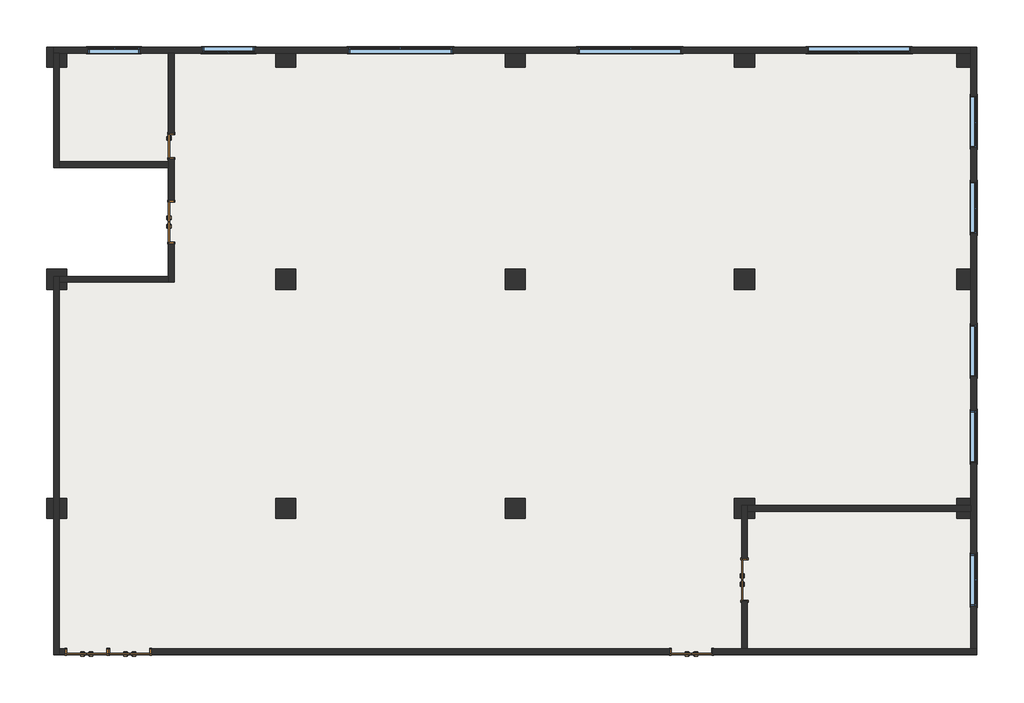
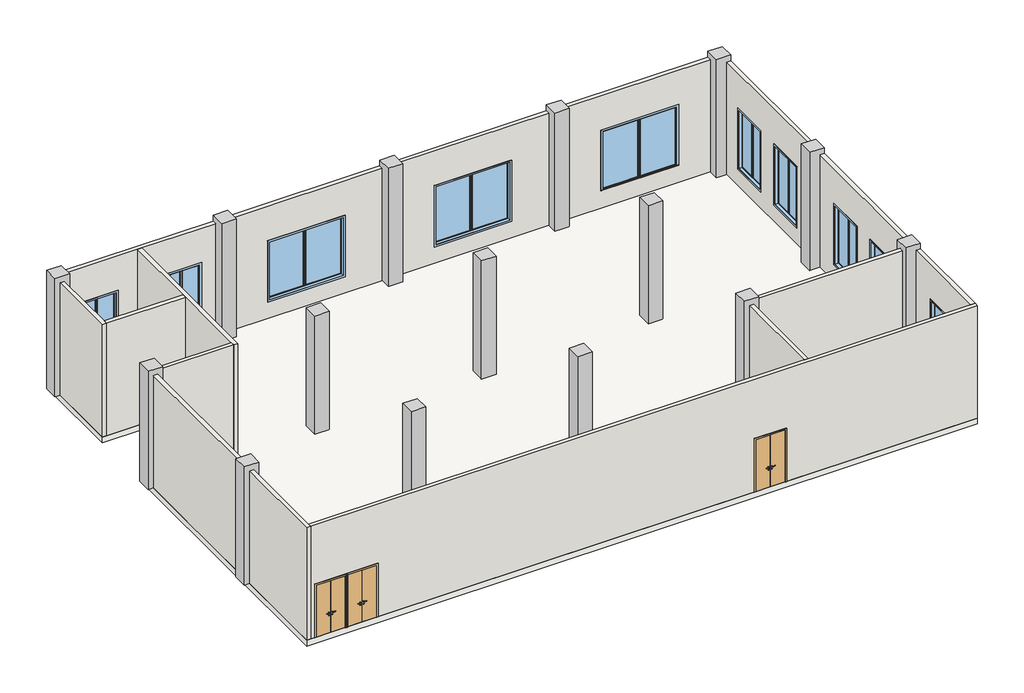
# One storey: 15 columns, 10 walls, 10 windows, 6 doors, 1 slab.
"""IFC4 building model written with IfcOpenShell, lengths in millimetres."""

from ifc_helpers import new_model, si_unit, frame, origin, origin_with_axes, place, context, project, spatial, polyline, outline, extrude, faceted_brep, transform, mapped, element, save
from components import column_5b022033, door_1500_x_2700mm_f4b82eac, door_1500_x_2700mm_deb20012, door_900_x_2100mm_1d156f18, window_d386cda9, window_40abb5d8

model = new_model("IFC4")

# Units and contexts
model_context = context("Model", 3, world=origin())
ifc_project = project(units=[si_unit("LENGTHUNIT", "METRE", prefix="MILLI")], contexts=[model_context])

# Site, building, storey
site = spatial("IfcSite", under=ifc_project)
building = spatial("IfcBuilding", under=site)
storey = spatial("IfcBuildingStorey", under=building, Name="标高 1", Elevation=0.0)

# Columns
placement = place(None, origin())
element("IfcColumn", 1, ObjectType="矩形柱 : 700*700MM", at=placement, inside=storey, context=model_context, shape_type="Brep", body=[
    faceted_brep([(-12381.5860739, 4904.04275, 6000.0), (-13081.5860739, 4904.04275, 6000.0), (-13081.5860739, 4204.04275, 6000.0), (-12381.5860739, 4204.04275, 6000.0), (-13081.5860739, 4204.04275, 0.0), (-13081.5860739, 4904.04275, 0.0), (-12831.5860739, 4904.04275, 0.0), (-12831.5860739, 4704.04275, 0.0), (-12831.5860739, 4204.04275, 0.0), (-12381.5860739, 4904.04275, 5700.0), (-12831.5860739, 4904.04275, 5700.0), (-12831.5860739, 4204.04275, 5700.0), (-12631.5860739, 4204.04275, 5700.0), (-12631.5860739, 4204.04275, 0.0), (-12381.5860739, 4204.04275, 0.0), (-12381.5860739, 4704.04275, 0.0), (-12381.5860739, 4704.04275, 5700.0), (-12631.5860739, 4704.04275, 0.0), (-12631.5860739, 4704.04275, 5700.0), (-12831.5860739, 4704.04275, 5700.0)], [[[0, 1, 2, 3]], [[4, 5, 6, 7, 8]], [[1, 0, 9, 10, 6, 5]], [[2, 1, 5, 4]], [[3, 2, 4, 8, 11, 12, 13, 14]], [[0, 3, 14, 15, 16, 9]], [[16, 15, 17, 18]], [[7, 6, 10, 19]], [[12, 18, 17, 13]], [[19, 11, 8, 7]], [[15, 14, 13, 17]], [[19, 10, 9, 16, 18]], [[18, 12, 11, 19]]]),
])
element("IfcColumn", 2, ObjectType="矩形柱 : 700*700MM", at=placement, inside=storey, context=model_context, shape_type="SweptSolid", body=[
    extrude(outline(polyline([(4204.04275, 6000.0), (4904.04275, 6000.0), (4904.04275, 5700.0), (4704.04275, 5700.0), (4704.04275, 0.0), (4204.04275, 0.0), (4204.04275, 6000.0)])), frame((-5081.5860739, 0.0, 0.0), z_axis=(1.0, 0.0, 0.0), x_axis=(0.0, 1.0, 0.0)), (0.0, 0.0, 1.0), 700.0),
])
element("IfcColumn", 3, ObjectType="矩形柱 : 700*700MM", at=placement, inside=storey, context=model_context, shape_type="SweptSolid", body=[
    extrude(outline(polyline([(4204.04275, 6000.0), (4904.04275, 6000.0), (4904.04275, 5700.0), (4704.04275, 5700.0), (4704.04275, 0.0), (4204.04275, 0.0), (4204.04275, 6000.0)])), frame((2918.4139261, 0.0, 0.0), z_axis=(1.0, 0.0, 0.0), x_axis=(0.0, 1.0, 0.0)), (0.0, 0.0, 1.0), 700.0),
])
element("IfcColumn", 4, ObjectType="矩形柱 : 700*700MM", at=placement, inside=storey, context=model_context, shape_type="SweptSolid", body=[
    extrude(outline(polyline([(4204.04275, 6000.0), (4904.04275, 6000.0), (4904.04275, 5700.0), (4704.04275, 5700.0), (4704.04275, 0.0), (4204.04275, 0.0), (4204.04275, 6000.0)])), frame((10918.4139261, 0.0, 0.0), z_axis=(1.0, 0.0, 0.0), x_axis=(0.0, 1.0, 0.0)), (0.0, 0.0, 1.0), 700.0),
])
element("IfcColumn", 5, ObjectType="矩形柱 : 700*700MM", at=placement, inside=storey, context=model_context, shape_type="Brep", body=[
    faceted_brep([(19368.4139261, 4904.04275, 6000.0), (18668.4139261, 4904.04275, 6000.0), (18668.4139261, 4204.04275, 6000.0), (19368.4139261, 4204.04275, 6000.0), (18668.4139261, 4204.04275, 0.0), (18668.4139261, 4704.04275, 0.0), (19168.4139261, 4704.04275, 0.0), (19168.4139261, 4204.04275, 0.0), (19368.4139261, 4904.04275, 5700.0), (19168.4139261, 4904.04275, 5700.0), (18668.4139261, 4904.04275, 5700.0), (18668.4139261, 4704.04275, 5700.0), (19168.4139261, 4204.04275, 5700.0), (19368.4139261, 4204.04275, 5700.0), (19168.4139261, 4704.04275, 5700.0)], [[[0, 1, 2, 3]], [[4, 5, 6, 7]], [[1, 0, 8, 9, 10]], [[2, 1, 10, 11, 5, 4]], [[3, 2, 4, 7, 12, 13]], [[0, 3, 13, 8]], [[6, 5, 11, 14]], [[14, 12, 7, 6]], [[14, 11, 10, 9]], [[12, 14, 9, 8, 13]]]),
])
element("IfcColumn", 6, ObjectType="矩形柱 : 700*700MM", at=placement, inside=storey, context=model_context, shape_type="Brep", body=[
    faceted_brep([(-12381.5860739, -2845.95725, 6000.0), (-13081.5860739, -2845.95725, 6000.0), (-13081.5860739, -3545.95725, 6000.0), (-12381.5860739, -3545.95725, 6000.0), (-13081.5860739, -3545.95725, 0.0), (-13081.5860739, -2845.95725, 0.0), (-12381.5860739, -2845.95725, 0.0), (-12381.5860739, -3095.95725, 0.0), (-12631.5860739, -3095.95725, 0.0), (-12831.5860739, -3095.95725, 0.0), (-12831.5860739, -3545.95725, 0.0), (-12831.5860739, -3545.95725, 5700.0), (-12631.5860739, -3545.95725, 5700.0), (-12631.5860739, -3545.95725, 0.0), (-12381.5860739, -3545.95725, 0.0), (-12381.5860739, -3295.95725, 0.0), (-12381.5860739, -3295.95725, 5700.0), (-12381.5860739, -3095.95725, 5700.0), (-12631.5860739, -3295.95725, 5700.0), (-12631.5860739, -3295.95725, 0.0), (-12831.5860739, -3095.95725, 5700.0), (-12631.5860739, -3095.95725, 5700.0)], [[[0, 1, 2, 3]], [[4, 5, 6, 7, 8, 9, 10]], [[1, 0, 6, 5]], [[2, 1, 5, 4]], [[3, 2, 4, 10, 11, 12, 13, 14]], [[0, 3, 14, 15, 16, 17, 7, 6]], [[13, 12, 18, 19]], [[9, 20, 11, 10]], [[20, 9, 8, 21]], [[17, 21, 8, 7]], [[18, 16, 15, 19]], [[14, 13, 19, 15]], [[20, 21, 18, 12, 11]], [[21, 17, 16, 18]]]),
])
element("IfcColumn", 7, ObjectType="矩形柱 : 700*700MM", at=placement, inside=storey, context=model_context, shape_type="SweptSolid", body=[
    extrude(outline(polyline([(6000.0, -12381.5860739), (6000.0, -13081.5860739), (0.0, -13081.5860739), (0.0, -12831.5860739), (5700.0, -12831.5860739), (5700.0, -12631.5860739), (0.0, -12631.5860739), (0.0, -12381.5860739), (6000.0, -12381.5860739)])), frame((0.0, -11545.95725, 0.0), z_axis=(0.0, 1.0, 0.0), x_axis=(0.0, 0.0, 1.0)), (0.0, 0.0, 1.0), 700.0),
])
element("IfcColumn", 8, ObjectType="矩形柱 : 700*700MM", at=placement, inside=storey, context=model_context, shape_type="Brep", body=[
    faceted_brep([(11618.4139261, -10845.95725, 6000.0), (10918.4139261, -10845.95725, 6000.0), (10918.4139261, -11545.95725, 6000.0), (11618.4139261, -11545.95725, 6000.0), (10918.4139261, -11545.95725, 0.0), (10918.4139261, -10845.95725, 0.0), (11618.4139261, -10845.95725, 0.0), (11618.4139261, -11095.95725, 0.0), (11368.4139261, -11095.95725, 0.0), (11168.4139261, -11095.95725, 0.0), (11168.4139261, -11545.95725, 0.0), (11168.4139261, -11545.95725, 5700.0), (11368.4139261, -11545.95725, 5700.0), (11368.4139261, -11545.95725, 0.0), (11618.4139261, -11545.95725, 0.0), (11618.4139261, -11295.95725, 0.0), (11618.4139261, -11295.95725, 5700.0), (11618.4139261, -11095.95725, 5700.0), (11368.4139261, -11295.95725, 5700.0), (11368.4139261, -11295.95725, 0.0), (11168.4139261, -11095.95725, 5700.0), (11368.4139261, -11095.95725, 5700.0)], [[[0, 1, 2, 3]], [[4, 5, 6, 7, 8, 9, 10]], [[1, 0, 6, 5]], [[2, 1, 5, 4]], [[3, 2, 4, 10, 11, 12, 13, 14]], [[0, 3, 14, 15, 16, 17, 7, 6]], [[13, 12, 18, 19]], [[9, 20, 11, 10]], [[20, 9, 8, 21]], [[18, 16, 15, 19]], [[17, 21, 8, 7]], [[14, 13, 19, 15]], [[20, 21, 18, 12, 11]], [[16, 18, 21, 17]]]),
])
element("IfcColumn", 9, ObjectType="矩形柱 : 700*700MM", at=placement, inside=storey, context=model_context, shape_type="SweptSolid", body=[
    extrude(outline(polyline([(6000.0, 19368.4139261), (6000.0, 18668.4139261), (0.0, 18668.4139261), (0.0, 19168.4139261), (5700.0, 19168.4139261), (5700.0, 19368.4139261), (6000.0, 19368.4139261)])), frame((0.0, -3545.95725, 0.0), z_axis=(0.0, 1.0, 0.0), x_axis=(0.0, 0.0, 1.0)), (0.0, 0.0, 1.0), 700.0),
])
element("IfcColumn", 10, ObjectType="矩形柱 : 700*700MM", at=placement, inside=storey, context=model_context, shape_type="Brep", body=[
    faceted_brep([(19368.4139261, -10845.95725, 6000.0), (18668.4139261, -10845.95725, 6000.0), (18668.4139261, -11545.95725, 6000.0), (19368.4139261, -11545.95725, 6000.0), (18668.4139261, -10845.95725, 0.0), (19168.4139261, -10845.95725, 0.0), (19168.4139261, -11095.95725, 0.0), (18668.4139261, -11095.95725, 0.0), (19368.4139261, -10845.95725, 5700.0), (19168.4139261, -10845.95725, 5700.0), (18668.4139261, -11095.95725, 5700.0), (18668.4139261, -11295.95725, 5700.0), (18668.4139261, -11295.95725, 0.0), (18668.4139261, -11545.95725, 0.0), (19168.4139261, -11545.95725, 0.0), (19168.4139261, -11545.95725, 5700.0), (19368.4139261, -11545.95725, 5700.0), (19168.4139261, -11095.95725, 5700.0), (19168.4139261, -11295.95725, 5700.0), (19168.4139261, -11295.95725, 0.0)], [[[0, 1, 2, 3]], [[4, 5, 6, 7]], [[1, 0, 8, 9, 5, 4]], [[2, 1, 4, 7, 10, 11, 12, 13]], [[3, 2, 13, 14, 15, 16]], [[0, 3, 16, 8]], [[5, 9, 17, 6]], [[11, 18, 19, 12]], [[17, 10, 7, 6]], [[14, 13, 12, 19]], [[15, 14, 19, 18]], [[9, 8, 16, 15, 18, 17]], [[18, 11, 10, 17]]]),
])
column_shape = column_5b022033(model_context)
element("IfcColumn", 11, ObjectType="矩形柱 : 700*700MM", at=placement, inside=storey, context=model_context, shape_type="MappedRepresentation", body=[
    mapped(column_shape, transform((-4731.5860739, -11195.95725, 0.0), x_axis=(1.0, 0.0, 0.0), y_axis=(0.0, 1.0, 0.0), z_axis=(0.0, 0.0, 1.0))),
])
element("IfcColumn", 12, ObjectType="矩形柱 : 700*700MM", at=placement, inside=storey, context=model_context, shape_type="MappedRepresentation", body=[
    mapped(column_shape, transform((-4731.5860739, -3195.95725, 0.0), x_axis=(1.0, 0.0, 0.0), y_axis=(0.0, 1.0, 0.0), z_axis=(0.0, 0.0, 1.0))),
])
element("IfcColumn", 13, ObjectType="矩形柱 : 700*700MM", at=placement, inside=storey, context=model_context, shape_type="MappedRepresentation", body=[
    mapped(column_shape, transform((3268.4139261, -3195.95725, 0.0), x_axis=(1.0, 0.0, 0.0), y_axis=(0.0, 1.0, 0.0), z_axis=(0.0, 0.0, 1.0))),
])
element("IfcColumn", 14, ObjectType="矩形柱 : 700*700MM", at=placement, inside=storey, context=model_context, shape_type="MappedRepresentation", body=[
    mapped(column_shape, transform((3268.4139261, -11195.95725, 0.0), x_axis=(1.0, 0.0, 0.0), y_axis=(0.0, 1.0, 0.0), z_axis=(0.0, 0.0, 1.0))),
])
element("IfcColumn", 15, ObjectType="矩形柱 : 700*700MM", at=placement, inside=storey, context=model_context, shape_type="MappedRepresentation", body=[
    mapped(column_shape, transform((11268.4139261, -3195.95725, 0.0), x_axis=(1.0, 0.0, 0.0), y_axis=(0.0, 1.0, 0.0), z_axis=(0.0, 0.0, 1.0))),
])

# Doors
door_1500_x_2700mm_shape = door_1500_x_2700mm_f4b82eac(model_context)
element("IfcDoor", 16, ObjectType="双面嵌板木门 1 : 1500 x 2700mm", at=placement, inside=storey, context=model_context, shape_type="MappedRepresentation", body=[
    mapped(door_1500_x_2700mm_shape, transform((-10181.5860739, -16195.95725, 0.0), x_axis=(-1.0, 0.0, 0.0), y_axis=(0.0, -1.0, 0.0), z_axis=(0.0, 0.0, 1.0))),
])
element("IfcDoor", 17, ObjectType="双面嵌板木门 1 : 1500 x 2700mm", at=placement, inside=storey, context=model_context, shape_type="MappedRepresentation", body=[
    mapped(door_1500_x_2700mm_shape, transform((9418.4139261, -16195.95725, 0.0), x_axis=(-1.0, 0.0, 0.0), y_axis=(0.0, -1.0, 0.0), z_axis=(0.0, 0.0, 1.0))),
])
element("IfcDoor", 18, ObjectType="双面嵌板木门 1 : 1500 x 2700mm", at=placement, inside=storey, context=model_context, shape_type="MappedRepresentation", body=[
    mapped(door_1500_x_2700mm_shape, transform((11268.4139261, -13695.95725, 0.0), x_axis=(0.0, 1.0, 0.0), y_axis=(-1.0, 0.0, 0.0), z_axis=(0.0, 0.0, 1.0))),
])
door_1500_x_2700mm_2_shape = door_1500_x_2700mm_deb20012(model_context)
element("IfcDoor", 19, ObjectType="双面嵌板木门 1 : 1500 x 2700mm", at=placement, inside=storey, context=model_context, shape_type="MappedRepresentation", body=[
    mapped(door_1500_x_2700mm_2_shape, transform((-11681.5860739, -16195.95725, 0.0), x_axis=(1.0, 0.0, 0.0), y_axis=(0.0, 1.0, 0.0), z_axis=(0.0, 0.0, 1.0))),
])
element("IfcDoor", 20, ObjectType="双面嵌板木门 1 : 1500 x 2700mm", at=placement, inside=storey, context=model_context, shape_type="MappedRepresentation", body=[
    mapped(door_1500_x_2700mm_2_shape, transform((-8731.5860739, -1195.95725, 0.0), x_axis=(0.0, -1.0, 0.0), y_axis=(1.0, 0.0, 0.0), z_axis=(0.0, 0.0, 1.0))),
])
door_900_x_2100mm_shape = door_900_x_2100mm_1d156f18(model_context)
element("IfcDoor", 21, ObjectType="单嵌板木门 1 : 900 x 2100mm", at=placement, inside=storey, context=model_context, shape_type="MappedRepresentation", body=[
    mapped(door_900_x_2100mm_shape, transform((-8731.5860739, 1454.04275, 0.0), x_axis=(0.0, -1.0, 0.0), y_axis=(1.0, 0.0, 0.0), z_axis=(0.0, 0.0, 1.0))),
])

# Slab
element("IfcSlab", 22, ObjectType="常规 - 300mm", at=placement, inside=storey, context=model_context, shape_type="SweptSolid", body=[
    extrude(outline(polyline([(-12831.5860739, 4904.04275), (19368.4139261, 4904.04275), (19368.4139261, -16295.95725), (-12831.5860739, -16295.95725), (-12831.5860739, -3095.95725), (-8831.5860739, -3095.95725), (-8831.5860739, 704.04275), (-12831.5860739, 704.04275), (-12831.5860739, 4904.04275)])), frame((0.0, 0.0, -300.0), z_axis=(0.0, 0.0, 1.0), x_axis=(1.0, 0.0, 0.0)), (0.0, 0.0, 1.0), 300.0),
])

# Walls
element("IfcWall", 23, ObjectType="常规 - 200mm", at=placement, inside=storey, context=model_context, shape_type="Brep", body=[
    faceted_brep([(-12831.5860739, 4704.04275, 0.0), (-12631.5860739, 4704.04275, 0.0), (-12381.5860739, 4704.04275, 0.0), (-8831.5860739, 4704.04275, 0.0), (-8631.5860739, 4704.04275, 0.0), (-5081.5860739, 4704.04275, 0.0), (-4381.5860739, 4704.04275, 0.0), (2918.4139261, 4704.04275, 0.0), (3618.4139261, 4704.04275, 0.0), (10918.4139261, 4704.04275, 0.0), (11618.4139261, 4704.04275, 0.0), (18668.4139261, 4704.04275, 0.0), (19168.4139261, 4704.04275, 0.0), (19168.4139261, 4704.04275, 5700.0), (18668.4139261, 4704.04275, 5700.0), (11618.4139261, 4704.04275, 5700.0), (10918.4139261, 4704.04275, 5700.0), (3618.4139261, 4704.04275, 5700.0), (2918.4139261, 4704.04275, 5700.0), (-4381.5860739, 4704.04275, 5700.0), (-5081.5860739, 4704.04275, 5700.0), (-8631.5860739, 4704.04275, 5700.0), (-8831.5860739, 4704.04275, 5700.0), (-12381.5860739, 4704.04275, 5700.0), (-12631.5860739, 4704.04275, 5700.0), (-12831.5860739, 4704.04275, 5700.0), (-9831.5860739, 4704.04275, 3900.0), (-9831.5860739, 4704.04275, 900.0), (-11631.5860739, 4704.04275, 900.0), (-11631.5860739, 4704.04275, 3900.0), (-7631.5860739, 4704.04275, 3900.0), (-5831.5860739, 4704.04275, 3900.0), (-5831.5860739, 4704.04275, 900.0), (-7631.5860739, 4704.04275, 900.0), (1068.4139261, 4704.04275, 3900.0), (1068.4139261, 4704.04275, 900.0), (-2531.5860739, 4704.04275, 900.0), (-2531.5860739, 4704.04275, 3900.0), (9068.4139261, 4704.04275, 3900.0), (9068.4139261, 4704.04275, 900.0), (5468.4139261, 4704.04275, 900.0), (5468.4139261, 4704.04275, 3900.0), (13468.4139261, 4704.04275, 3900.0), (17068.4139261, 4704.04275, 3900.0), (17068.4139261, 4704.04275, 900.0), (13468.4139261, 4704.04275, 900.0), (-12831.5860739, 4904.04275, 0.0), (-12831.5860739, 4904.04275, 5700.0), (-12381.5860739, 4904.04275, 5700.0), (-5081.5860739, 4904.04275, 5700.0), (-4381.5860739, 4904.04275, 5700.0), (2918.4139261, 4904.04275, 5700.0), (3618.4139261, 4904.04275, 5700.0), (10918.4139261, 4904.04275, 5700.0), (11618.4139261, 4904.04275, 5700.0), (18668.4139261, 4904.04275, 5700.0), (19168.4139261, 4904.04275, 5700.0), (19168.4139261, 4904.04275, 0.0), (-9831.5860739, 4904.04275, 3900.0), (-11631.5860739, 4904.04275, 3900.0), (-11631.5860739, 4904.04275, 900.0), (-9831.5860739, 4904.04275, 900.0), (-7631.5860739, 4904.04275, 3900.0), (-7631.5860739, 4904.04275, 900.0), (-5831.5860739, 4904.04275, 900.0), (-5831.5860739, 4904.04275, 3900.0), (1068.4139261, 4904.04275, 3900.0), (-2531.5860739, 4904.04275, 3900.0), (-2531.5860739, 4904.04275, 900.0), (1068.4139261, 4904.04275, 900.0), (9068.4139261, 4904.04275, 3900.0), (5468.4139261, 4904.04275, 3900.0), (5468.4139261, 4904.04275, 900.0), (9068.4139261, 4904.04275, 900.0), (13468.4139261, 4904.04275, 3900.0), (13468.4139261, 4904.04275, 900.0), (17068.4139261, 4904.04275, 900.0), (17068.4139261, 4904.04275, 3900.0)], [[[0, 1, 2, 3, 4, 5, 6, 7, 8, 9, 10, 11, 12, 13, 14, 15, 16, 17, 18, 19, 20, 21, 22, 23, 24, 25], [26, 27, 28, 29], [30, 31, 32, 33], [34, 35, 36, 37], [38, 39, 40, 41], [42, 43, 44, 45]], [[46, 47, 48, 49, 50, 51, 52, 53, 54, 55, 56, 57], [58, 59, 60, 61], [62, 63, 64, 65], [66, 67, 68, 69], [70, 71, 72, 73], [74, 75, 76, 77]], [[12, 11, 10, 9, 8, 7, 6, 5, 4, 3, 2, 1, 0, 46, 57]], [[0, 25, 47, 46]], [[13, 12, 57, 56]], [[27, 26, 58, 61]], [[28, 27, 61, 60]], [[29, 28, 60, 59]], [[26, 29, 59, 58]], [[63, 62, 30, 33]], [[64, 63, 33, 32]], [[65, 64, 32, 31]], [[62, 65, 31, 30]], [[35, 34, 66, 69]], [[36, 35, 69, 68]], [[37, 36, 68, 67]], [[34, 37, 67, 66]], [[39, 38, 70, 73]], [[40, 39, 73, 72]], [[41, 40, 72, 71]], [[38, 41, 71, 70]], [[75, 74, 42, 45]], [[76, 75, 45, 44]], [[77, 76, 44, 43]], [[74, 77, 43, 42]], [[25, 24, 23, 22, 21, 20, 19, 18, 17, 16, 15, 14, 13, 56, 55, 54, 53, 52, 51, 50, 49, 48, 47]]]),
])
element("IfcWall", 24, ObjectType="常规 - 200mm", at=placement, inside=storey, context=model_context, shape_type="Brep", body=[
    faceted_brep([(-12631.5860739, -16295.95725, 0.0), (-12631.5860739, -16095.95725, 0.0), (-12631.5860739, -11545.95725, 0.0), (-12631.5860739, -10845.95725, 0.0), (-12631.5860739, -3545.95725, 0.0), (-12631.5860739, -3295.95725, 0.0), (-12631.5860739, -3095.95725, 0.0), (-12631.5860739, -3095.95725, 5700.0), (-12631.5860739, -3295.95725, 5700.0), (-12631.5860739, -3545.95725, 5700.0), (-12631.5860739, -10845.95725, 5700.0), (-12631.5860739, -11545.95725, 5700.0), (-12631.5860739, -16095.95725, 5700.0), (-12631.5860739, -16295.95725, 5700.0), (-12831.5860739, -16295.95725, 0.0), (-12831.5860739, -16295.95725, 5700.0), (-12831.5860739, -11545.95725, 5700.0), (-12831.5860739, -10845.95725, 5700.0), (-12831.5860739, -3545.95725, 5700.0), (-12831.5860739, -3095.95725, 5700.0), (-12831.5860739, -3095.95725, 0.0), (-12831.5860739, -3545.95725, 0.0), (-12831.5860739, -10845.95725, 0.0), (-12831.5860739, -11545.95725, 0.0)], [[[0, 1, 2, 3, 4, 5, 6, 7, 8, 9, 10, 11, 12, 13]], [[14, 15, 16, 17, 18, 19, 20, 21, 22, 23]], [[6, 5, 4, 3, 2, 1, 0, 14, 23, 22, 21, 20]], [[0, 13, 15, 14]], [[7, 6, 20, 19]], [[13, 12, 11, 10, 9, 8, 7, 19, 18, 17, 16, 15]]]),
])
element("IfcWall", 25, ObjectType="常规 - 200mm", at=placement, inside=storey, context=model_context, shape_type="Brep", body=[
    faceted_brep([(19368.4139261, -16095.95725, 5700.0), (19368.4139261, -16095.95725, 0.0), (19168.4139261, -16095.95725, 0.0), (11368.4139261, -16095.95725, 0.0), (11168.4139261, -16095.95725, 0.0), (10168.4139261, -16095.95725, 0.0), (10168.4139261, -16095.95725, 2700.0), (8668.4139261, -16095.95725, 2700.0), (8668.4139261, -16095.95725, 0.0), (-9431.5860739, -16095.95725, 0.0), (-9431.5860739, -16095.95725, 2700.0), (-12431.5860739, -16095.95725, 2700.0), (-12431.5860739, -16095.95725, 0.0), (-12631.5860739, -16095.95725, 0.0), (-12631.5860739, -16095.95725, 5700.0), (11168.4139261, -16095.95725, 5700.0), (11368.4139261, -16095.95725, 5700.0), (19168.4139261, -16095.95725, 5700.0), (19368.4139261, -16295.95725, 0.0), (19368.4139261, -16295.95725, 5700.0), (-12631.5860739, -16295.95725, 5700.0), (-12631.5860739, -16295.95725, 0.0), (-12431.5860739, -16295.95725, 0.0), (-12431.5860739, -16295.95725, 2700.0), (-9431.5860739, -16295.95725, 2700.0), (-9431.5860739, -16295.95725, 0.0), (8668.4139261, -16295.95725, 0.0), (8668.4139261, -16295.95725, 2700.0), (10168.4139261, -16295.95725, 2700.0), (10168.4139261, -16295.95725, 0.0)], [[[0, 1, 2, 3, 4, 5, 6, 7, 8, 9, 10, 11, 12, 13, 14, 15, 16, 17]], [[18, 19, 20, 21, 22, 23, 24, 25, 26, 27, 28, 29]], [[1, 18, 29, 5, 4, 3, 2]], [[21, 13, 12, 22]], [[25, 9, 8, 26]], [[1, 0, 19, 18]], [[14, 13, 21, 20]], [[23, 11, 10, 24]], [[11, 23, 22, 12]], [[24, 10, 9, 25]], [[7, 27, 26, 8]], [[27, 7, 6, 28]], [[28, 6, 5, 29]], [[0, 17, 16, 15, 14, 20, 19]]]),
])
element("IfcWall", 26, ObjectType="常规 - 200mm", at=placement, inside=storey, context=model_context, shape_type="Brep", body=[
    faceted_brep([(19168.4139261, 4904.04275, 0.0), (19168.4139261, 4704.04275, 0.0), (19168.4139261, 4204.04275, 0.0), (19168.4139261, -2845.95725, 0.0), (19168.4139261, -3545.95725, 0.0), (19168.4139261, -10845.95725, 0.0), (19168.4139261, -11095.95725, 0.0), (19168.4139261, -11295.95725, 0.0), (19168.4139261, -11545.95725, 0.0), (19168.4139261, -16095.95725, 0.0), (19168.4139261, -16095.95725, 5700.0), (19168.4139261, -11545.95725, 5700.0), (19168.4139261, -11295.95725, 5700.0), (19168.4139261, -11095.95725, 5700.0), (19168.4139261, -10845.95725, 5700.0), (19168.4139261, -3545.95725, 5700.0), (19168.4139261, -2845.95725, 5700.0), (19168.4139261, 4204.04275, 5700.0), (19168.4139261, 4704.04275, 5700.0), (19168.4139261, 4904.04275, 5700.0), (19168.4139261, 1404.04275, 3900.0), (19168.4139261, 1404.04275, 900.0), (19168.4139261, 3204.04275, 900.0), (19168.4139261, 3204.04275, 3900.0), (19168.4139261, -1595.95725, 3900.0), (19168.4139261, -1595.95725, 900.0), (19168.4139261, 204.04275, 900.0), (19168.4139261, 204.04275, 3900.0), (19168.4139261, -6595.95725, 3900.0), (19168.4139261, -6595.95725, 900.0), (19168.4139261, -4795.95725, 900.0), (19168.4139261, -4795.95725, 3900.0), (19168.4139261, -9595.95725, 3900.0), (19168.4139261, -9595.95725, 900.0), (19168.4139261, -7795.95725, 900.0), (19168.4139261, -7795.95725, 3900.0), (19168.4139261, -14595.95725, 3900.0), (19168.4139261, -14595.95725, 900.0), (19168.4139261, -12795.95725, 900.0), (19168.4139261, -12795.95725, 3900.0), (19368.4139261, 4904.04275, 0.0), (19368.4139261, 4904.04275, 5700.0), (19368.4139261, 4204.04275, 5700.0), (19368.4139261, -2845.95725, 5700.0), (19368.4139261, -3545.95725, 5700.0), (19368.4139261, -10845.95725, 5700.0), (19368.4139261, -11545.95725, 5700.0), (19368.4139261, -16095.95725, 5700.0), (19368.4139261, -16095.95725, 0.0), (19368.4139261, 1404.04275, 3900.0), (19368.4139261, 3204.04275, 3900.0), (19368.4139261, 3204.04275, 900.0), (19368.4139261, 1404.04275, 900.0), (19368.4139261, -1595.95725, 3900.0), (19368.4139261, 204.04275, 3900.0), (19368.4139261, 204.04275, 900.0), (19368.4139261, -1595.95725, 900.0), (19368.4139261, -6595.95725, 3900.0), (19368.4139261, -4795.95725, 3900.0), (19368.4139261, -4795.95725, 900.0), (19368.4139261, -6595.95725, 900.0), (19368.4139261, -9595.95725, 3900.0), (19368.4139261, -7795.95725, 3900.0), (19368.4139261, -7795.95725, 900.0), (19368.4139261, -9595.95725, 900.0), (19368.4139261, -14595.95725, 3900.0), (19368.4139261, -12795.95725, 3900.0), (19368.4139261, -12795.95725, 900.0), (19368.4139261, -14595.95725, 900.0)], [[[0, 1, 2, 3, 4, 5, 6, 7, 8, 9, 10, 11, 12, 13, 14, 15, 16, 17, 18, 19], [20, 21, 22, 23], [24, 25, 26, 27], [28, 29, 30, 31], [32, 33, 34, 35], [36, 37, 38, 39]], [[40, 41, 42, 43, 44, 45, 46, 47, 48], [49, 50, 51, 52], [53, 54, 55, 56], [57, 58, 59, 60], [61, 62, 63, 64], [65, 66, 67, 68]], [[9, 8, 7, 6, 5, 4, 3, 2, 1, 0, 40, 48]], [[0, 19, 41, 40]], [[10, 9, 48, 47]], [[21, 20, 49, 52]], [[22, 21, 52, 51]], [[23, 22, 51, 50]], [[20, 23, 50, 49]], [[25, 24, 53, 56]], [[26, 25, 56, 55]], [[27, 26, 55, 54]], [[24, 27, 54, 53]], [[29, 28, 57, 60]], [[30, 29, 60, 59]], [[31, 30, 59, 58]], [[28, 31, 58, 57]], [[33, 32, 61, 64]], [[34, 33, 64, 63]], [[35, 34, 63, 62]], [[32, 35, 62, 61]], [[37, 36, 65, 68]], [[38, 37, 68, 67]], [[39, 38, 67, 66]], [[36, 39, 66, 65]], [[19, 18, 17, 16, 15, 14, 13, 12, 11, 10, 47, 46, 45, 44, 43, 42, 41]]]),
])
element("IfcWall", 27, ObjectType="常规 - 200mm", at=placement, inside=storey, context=model_context, shape_type="Brep", body=[
    faceted_brep([(-12631.5860739, 704.04275, 0.0), (-12631.5860739, 904.04275, 0.0), (-12631.5860739, 4204.04275, 0.0), (-12631.5860739, 4704.04275, 0.0), (-12631.5860739, 4704.04275, 5700.0), (-12631.5860739, 4204.04275, 5700.0), (-12631.5860739, 904.04275, 5700.0), (-12631.5860739, 704.04275, 5700.0), (-12831.5860739, 704.04275, 0.0), (-12831.5860739, 704.04275, 5700.0), (-12831.5860739, 4204.04275, 5700.0), (-12831.5860739, 4704.04275, 5700.0), (-12831.5860739, 4704.04275, 0.0), (-12831.5860739, 4204.04275, 0.0)], [[[0, 1, 2, 3, 4, 5, 6, 7]], [[8, 9, 10, 11, 12, 13]], [[3, 2, 1, 0, 8, 13, 12]], [[4, 3, 12, 11]], [[0, 7, 9, 8]], [[7, 6, 5, 4, 11, 10, 9]]]),
])
element("IfcWall", 28, ObjectType="常规 - 200mm", at=placement, inside=storey, context=model_context, shape_type="SweptSolid", body=[
    extrude(outline(polyline([(-8831.5860739, 704.04275), (-12631.5860739, 704.04275), (-12631.5860739, 904.04275), (-8831.5860739, 904.04275), (-8831.5860739, 704.04275)])), origin_with_axes(), (0.0, 0.0, 1.0), 5700.0),
])
element("IfcWall", 29, ObjectType="常规 - 200mm", at=placement, inside=storey, context=model_context, shape_type="Brep", body=[
    faceted_brep([(-8831.5860739, -3295.95725, 0.0), (-8831.5860739, -3295.95725, 5700.0), (-8831.5860739, -3095.95725, 5700.0), (-8831.5860739, 704.04275, 5700.0), (-8831.5860739, 904.04275, 5700.0), (-8831.5860739, 4704.04275, 5700.0), (-8831.5860739, 4704.04275, 0.0), (-8831.5860739, 1904.04275, 0.0), (-8831.5860739, 1904.04275, 2100.0), (-8831.5860739, 1004.04275, 2100.0), (-8831.5860739, 1004.04275, 0.0), (-8831.5860739, 904.04275, 0.0), (-8831.5860739, 704.04275, 0.0), (-8831.5860739, -445.95725, 0.0), (-8831.5860739, -445.95725, 2700.0), (-8831.5860739, -1945.95725, 2700.0), (-8831.5860739, -1945.95725, 0.0), (-8831.5860739, -3095.95725, 0.0), (-8631.5860739, 4704.04275, 5700.0), (-8631.5860739, -3295.95725, 5700.0), (-8631.5860739, -3295.95725, 0.0), (-8631.5860739, -1945.95725, 0.0), (-8631.5860739, -1945.95725, 2700.0), (-8631.5860739, -445.95725, 2700.0), (-8631.5860739, -445.95725, 0.0), (-8631.5860739, 1004.04275, 0.0), (-8631.5860739, 1004.04275, 2100.0), (-8631.5860739, 1904.04275, 2100.0), (-8631.5860739, 1904.04275, 0.0), (-8631.5860739, 4704.04275, 0.0)], [[[0, 1, 2, 3, 4, 5, 6, 7, 8, 9, 10, 11, 12, 13, 14, 15, 16, 17]], [[18, 19, 20, 21, 22, 23, 24, 25, 26, 27, 28, 29]], [[20, 0, 17, 16, 21]], [[24, 13, 12, 11, 10, 25]], [[6, 29, 28, 7]], [[1, 0, 20, 19]], [[15, 22, 21, 16]], [[22, 15, 14, 23]], [[23, 14, 13, 24]], [[6, 5, 18, 29]], [[9, 26, 25, 10]], [[26, 9, 8, 27]], [[27, 8, 7, 28]], [[19, 18, 5, 4, 3, 2, 1]]]),
])
element("IfcWall", 30, ObjectType="常规 - 200mm", at=placement, inside=storey, context=model_context, shape_type="Brep", body=[
    faceted_brep([(-8831.5860739, -3095.95725, 0.0), (-12381.5860739, -3095.95725, 0.0), (-12631.5860739, -3095.95725, 0.0), (-12631.5860739, -3095.95725, 5700.0), (-12381.5860739, -3095.95725, 5700.0), (-8831.5860739, -3095.95725, 5700.0), (-8831.5860739, -3295.95725, 0.0), (-8831.5860739, -3295.95725, 5700.0), (-12381.5860739, -3295.95725, 5700.0), (-12631.5860739, -3295.95725, 5700.0), (-12631.5860739, -3295.95725, 0.0), (-12381.5860739, -3295.95725, 0.0)], [[[0, 1, 2, 3, 4, 5]], [[6, 7, 8, 9, 10, 11]], [[2, 1, 0, 6, 11, 10]], [[3, 2, 10, 9]], [[0, 5, 7, 6]], [[5, 4, 3, 9, 8, 7]]]),
])
element("IfcWall", 31, ObjectType="常规 - 200mm", at=placement, inside=storey, context=model_context, shape_type="Brep", body=[
    faceted_brep([(11368.4139261, -16095.95725, 5700.0), (11368.4139261, -16095.95725, 0.0), (11368.4139261, -14445.95725, 0.0), (11368.4139261, -14445.95725, 2700.0), (11368.4139261, -12945.95725, 2700.0), (11368.4139261, -12945.95725, 0.0), (11368.4139261, -11545.95725, 0.0), (11368.4139261, -11295.95725, 0.0), (11368.4139261, -11095.95725, 0.0), (11368.4139261, -11095.95725, 5700.0), (11368.4139261, -11295.95725, 5700.0), (11368.4139261, -11545.95725, 5700.0), (11168.4139261, -16095.95725, 0.0), (11168.4139261, -16095.95725, 5700.0), (11168.4139261, -11545.95725, 5700.0), (11168.4139261, -11095.95725, 5700.0), (11168.4139261, -11095.95725, 0.0), (11168.4139261, -11545.95725, 0.0), (11168.4139261, -12945.95725, 0.0), (11168.4139261, -12945.95725, 2700.0), (11168.4139261, -14445.95725, 2700.0), (11168.4139261, -14445.95725, 0.0)], [[[0, 1, 2, 3, 4, 5, 6, 7, 8, 9, 10, 11]], [[12, 13, 14, 15, 16, 17, 18, 19, 20, 21]], [[1, 12, 21, 2]], [[16, 8, 7, 6, 5, 18, 17]], [[1, 0, 13, 12]], [[9, 8, 16, 15]], [[4, 19, 18, 5]], [[19, 4, 3, 20]], [[20, 3, 2, 21]], [[0, 11, 10, 9, 15, 14, 13]]]),
])
element("IfcWall", 32, ObjectType="常规 - 200mm", at=placement, inside=storey, context=model_context, shape_type="Brep", body=[
    faceted_brep([(11368.4139261, -11295.95725, 0.0), (11618.4139261, -11295.95725, 0.0), (18668.4139261, -11295.95725, 0.0), (19168.4139261, -11295.95725, 0.0), (19168.4139261, -11295.95725, 5700.0), (18668.4139261, -11295.95725, 5700.0), (11618.4139261, -11295.95725, 5700.0), (11368.4139261, -11295.95725, 5700.0), (11368.4139261, -11095.95725, 0.0), (11368.4139261, -11095.95725, 5700.0), (11618.4139261, -11095.95725, 5700.0), (18668.4139261, -11095.95725, 5700.0), (19168.4139261, -11095.95725, 5700.0), (19168.4139261, -11095.95725, 0.0), (18668.4139261, -11095.95725, 0.0), (11618.4139261, -11095.95725, 0.0)], [[[0, 1, 2, 3, 4, 5, 6, 7]], [[8, 9, 10, 11, 12, 13, 14, 15]], [[3, 2, 1, 0, 8, 15, 14, 13]], [[0, 7, 9, 8]], [[4, 3, 13, 12]], [[7, 6, 5, 4, 12, 11, 10, 9]]]),
])

# Windows
window_shape = window_d386cda9(model_context)
element("IfcWindow", 33, ObjectType="双扇平开 - 带贴面 : 1800*3000MM", at=placement, inside=storey, context=model_context, shape_type="MappedRepresentation", body=[
    mapped(window_shape, transform((-10731.5860739, 4804.04275, -1.0), x_axis=(1.0, 0.0, 0.0), y_axis=(0.0, 1.0, 0.0), z_axis=(0.0, 0.0, 1.0))),
])
element("IfcWindow", 34, ObjectType="双扇平开 - 带贴面 : 1800*3000MM", at=placement, inside=storey, context=model_context, shape_type="MappedRepresentation", body=[
    mapped(window_shape, transform((-6731.5860739, 4804.04275, -1.0), x_axis=(-1.0, 0.0, 0.0), y_axis=(0.0, -1.0, 0.0), z_axis=(0.0, 0.0, 1.0))),
])
element("IfcWindow", 35, ObjectType="双扇平开 - 带贴面 : 1800*3000MM", at=placement, inside=storey, context=model_context, shape_type="MappedRepresentation", body=[
    mapped(window_shape, transform((19268.4139261, 2304.04275, -1.0), x_axis=(0.0, -1.0, 0.0), y_axis=(1.0, 0.0, 0.0), z_axis=(0.0, 0.0, 1.0))),
])
element("IfcWindow", 36, ObjectType="双扇平开 - 带贴面 : 1800*3000MM", at=placement, inside=storey, context=model_context, shape_type="MappedRepresentation", body=[
    mapped(window_shape, transform((19268.4139261, -695.95725, -1.0), x_axis=(0.0, -1.0, 0.0), y_axis=(1.0, 0.0, 0.0), z_axis=(0.0, 0.0, 1.0))),
])
element("IfcWindow", 37, ObjectType="双扇平开 - 带贴面 : 1800*3000MM", at=placement, inside=storey, context=model_context, shape_type="MappedRepresentation", body=[
    mapped(window_shape, transform((19268.4139261, -5695.95725, -1.0), x_axis=(0.0, -1.0, 0.0), y_axis=(1.0, 0.0, 0.0), z_axis=(0.0, 0.0, 1.0))),
])
element("IfcWindow", 38, ObjectType="双扇平开 - 带贴面 : 1800*3000MM", at=placement, inside=storey, context=model_context, shape_type="MappedRepresentation", body=[
    mapped(window_shape, transform((19268.4139261, -8695.95725, -1.0), x_axis=(0.0, -1.0, 0.0), y_axis=(1.0, 0.0, 0.0), z_axis=(0.0, 0.0, 1.0))),
])
element("IfcWindow", 39, ObjectType="双扇平开 - 带贴面 : 1800*3000MM", at=placement, inside=storey, context=model_context, shape_type="MappedRepresentation", body=[
    mapped(window_shape, transform((19268.4139261, -13695.95725, -1.0), x_axis=(0.0, -1.0, 0.0), y_axis=(1.0, 0.0, 0.0), z_axis=(0.0, 0.0, 1.0))),
])
window_2_shape = window_40abb5d8(model_context)
element("IfcWindow", 40, ObjectType="双扇平开 - 带贴面 : 3600*3000MM", at=placement, inside=storey, context=model_context, shape_type="MappedRepresentation", body=[
    mapped(window_2_shape, transform((-731.5860739, 4804.04275, -1.0), x_axis=(1.0, 0.0, 0.0), y_axis=(0.0, 1.0, 0.0), z_axis=(0.0, 0.0, 1.0))),
])
element("IfcWindow", 41, ObjectType="双扇平开 - 带贴面 : 3600*3000MM", at=placement, inside=storey, context=model_context, shape_type="MappedRepresentation", body=[
    mapped(window_2_shape, transform((7268.4139261, 4804.04275, -1.0), x_axis=(1.0, 0.0, 0.0), y_axis=(0.0, 1.0, 0.0), z_axis=(0.0, 0.0, 1.0))),
])
element("IfcWindow", 42, ObjectType="双扇平开 - 带贴面 : 3600*3000MM", at=placement, inside=storey, context=model_context, shape_type="MappedRepresentation", body=[
    mapped(window_2_shape, transform((15268.4139261, 4804.04275, -1.0), x_axis=(-1.0, 0.0, 0.0), y_axis=(0.0, -1.0, 0.0), z_axis=(0.0, 0.0, 1.0))),
])

save(model, "model.ifc")
